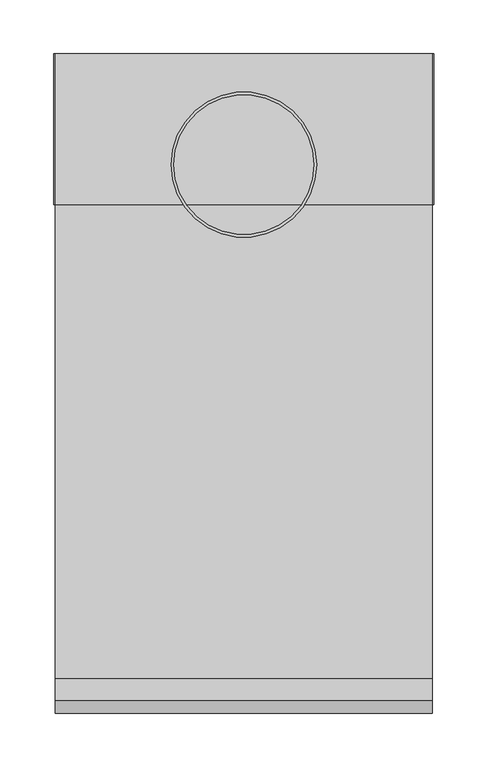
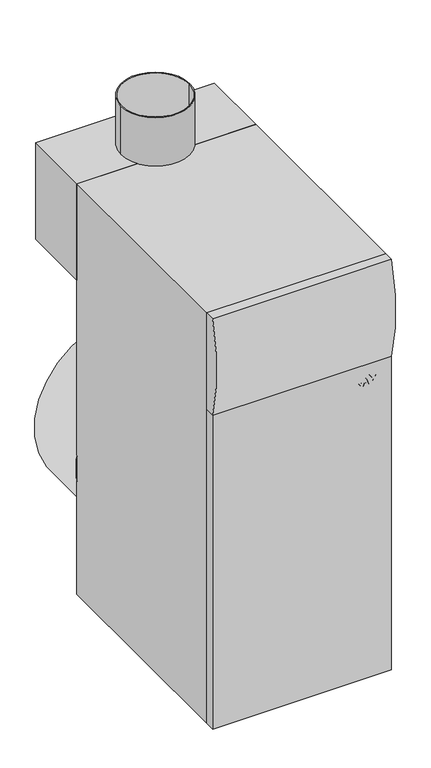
"""IFC4 building model written with IfcOpenShell, lengths in millimetres: proxy geometry, BAXI_ГазовыйКотел_Slim-i : BAXI_Газовый котел_Slim_1.230_i."""

from ifc_helpers import new_model, si_unit, point, frame, frame_2d, origin, origin_with_axes, place, context, project, spatial, polyline, circle_curve, trimmed, segment, composite_curve, outline, extrude, source, transform, mapped, element, save


def mechanical_equipment_adfab362(model_context):
    return source(origin(), model_context, "Body", "SweptSolid", [
        extrude(outline(composite_curve([segment(trimmed(circle_curve(frame_2d((260.3398592, 0.0)), 177.354555), [point((82.9853042, 0.0))], [point((437.6944142, 0.0))], False, "CARTESIAN"), True, "CONTINUOUS"), segment(trimmed(circle_curve(frame_2d((260.3398592, 0.0)), 177.354555), [point((437.6944142, 0.0))], [point((82.9853042, 0.0))], False, "CARTESIAN"), True, "CONTINUOUS")], self_intersect=False)), frame((0.0, -140.0, 0.0), z_axis=(0.0, 1.0, 0.0), x_axis=(0.0, 0.0, 1.0)), (0.0, 0.0, 1.0), 140.0),
        extrude(outline(polyline([(175.0, 0.0), (175.0, -140.0), (-175.0, -140.0), (-175.0, 0.0), (175.0, 0.0)])), frame((0.0, 0.0, 650.0), z_axis=(0.0, 0.0, 1.0), x_axis=(1.0, 0.0, 0.0)), (0.0, 0.0, 1.0), 200.0),
        extrude(outline(composite_curve([segment(trimmed(circle_curve(frame_2d((0.0, -103.0)), 67.5), [point((-67.5, -103.0))], [point((67.5, -103.0))], False, "CARTESIAN"), True, "CONTINUOUS"), segment(trimmed(circle_curve(frame_2d((0.0, -103.0)), 67.5), [point((67.5, -103.0))], [point((-67.5, -103.0))], False, "CARTESIAN"), True, "CONTINUOUS")], self_intersect=False), holes=[composite_curve([segment(trimmed(circle_curve(frame_2d((0.0, -103.0)), 65.0), [point((-65.0, -103.0))], [point((65.0, -103.0))], True, "CARTESIAN"), True, "CONTINUOUS"), segment(trimmed(circle_curve(frame_2d((0.0, -103.0)), 65.0), [point((65.0, -103.0))], [point((-65.0, -103.0))], True, "CARTESIAN"), True, "CONTINUOUS")], self_intersect=False)]), frame((0.0, 0.0, 850.0), z_axis=(0.0, 0.0, 1.0), x_axis=(1.0, 0.0, 0.0)), (0.0, 0.0, 1.0), 100.0),
        extrude(outline(composite_curve([segment(trimmed(circle_curve(frame_2d((60.0, 90.0)), 16.0), [point((44.0, 90.0))], [point((76.0, 90.0))], False, "CARTESIAN"), True, "CONTINUOUS"), segment(trimmed(circle_curve(frame_2d((60.0, 90.0)), 16.0), [point((76.0, 90.0))], [point((44.0, 90.0))], False, "CARTESIAN"), True, "CONTINUOUS")], self_intersect=False)), frame((0.0, -140.0, 0.0), z_axis=(0.0, 1.0, 0.0), x_axis=(0.0, 0.0, 1.0)), (0.0, 0.0, 1.0), 37.0),
        extrude(outline(composite_curve([segment(polyline([(-580.5, 650.0), (-600.5, 650.0)]), True, "CONTINUOUS"), segment(trimmed(circle_curve(frame_2d((-246.0821371, 750.0)), 368.2553754), [point((-600.5, 650.0))], [point((-600.5, 850.0))], False, "CARTESIAN"), True, "CONTINUOUS"), segment(polyline([(-600.5, 850.0), (-580.5, 850.0), (-580.5, 650.0)]), True, "CONTINUOUS")], self_intersect=False)), frame((-175.0, 0.0, 0.0), z_axis=(1.0, 0.0, 0.0), x_axis=(0.0, 1.0, 0.0)), (0.0, 0.0, 1.0), 350.0),
        extrude(outline(polyline([(175.0, -580.5), (175.0, -600.0), (-175.0, -600.0), (-175.0, -580.5), (175.0, -580.5)])), origin_with_axes(), (0.0, 0.0, 1.0), 650.0),
        extrude(outline(composite_curve([segment(trimmed(circle_curve(frame_2d((435.0, 133.0)), 7.5), [point((427.5, 133.0))], [point((442.5, 133.0))], False, "CARTESIAN"), True, "CONTINUOUS"), segment(trimmed(circle_curve(frame_2d((435.0, 133.0)), 7.5), [point((442.5, 133.0))], [point((427.5, 133.0))], False, "CARTESIAN"), True, "CONTINUOUS")], self_intersect=False)), frame((0.0, -140.0, 0.0), z_axis=(0.0, 1.0, 0.0), x_axis=(0.0, 0.0, 1.0)), (0.0, 0.0, 1.0), 37.0),
        extrude(outline(composite_curve([segment(trimmed(circle_curve(frame_2d((515.0, 133.0)), 10.0), [point((505.0, 133.0))], [point((525.0, 133.0))], False, "CARTESIAN"), True, "CONTINUOUS"), segment(trimmed(circle_curve(frame_2d((515.0, 133.0)), 10.0), [point((525.0, 133.0))], [point((505.0, 133.0))], False, "CARTESIAN"), True, "CONTINUOUS")], self_intersect=False)), frame((0.0, -140.0, 0.0), z_axis=(0.0, 1.0, 0.0), x_axis=(0.0, 0.0, 1.0)), (0.0, 0.0, 1.0), 37.0),
        extrude(outline(polyline([(175.0, -140.0), (175.0, -580.5), (-175.0, -580.5), (-175.0, -140.0), (175.0, -140.0)])), origin_with_axes(), (0.0, 0.0, 1.0), 850.0),
        extrude(outline(polyline([(621.6148871, 105.7694053), (606.3109961, 105.7694053), (606.3109961, 110.999753), (606.4134776, 114.7422224), (607.1365409, 116.8241133), (608.7041269, 118.1563717), (610.7252881, 118.6441073), (613.0216309, 117.9646935), (614.4032322, 116.0213422), (615.7582642, 117.5832349), (617.7395715, 118.1582695), (619.5405874, 117.6762273), (620.8272985, 116.4711218), (621.4630628, 114.8314192), (621.6148871, 112.0511364), (621.6148871, 105.7694053)]), holes=[polyline([(618.9427792, 108.6844322), (618.9427792, 110.6353747), (615.5912574, 113.3758036), (615.5419145, 110.9086584), (615.5419145, 108.6844322), (618.9427792, 108.6844322)]), polyline([(612.8698066, 108.6844322), (612.8698066, 111.3755182), (609.0741987, 114.0514218), (608.9831041, 111.7664658), (608.9831041, 108.6844322), (612.8698066, 108.6844322)])]), frame((0.0, -600.0, 0.0), z_axis=(0.0, 1.0, 0.0), x_axis=(0.0, 0.0, 1.0)), (0.0, 0.0, 1.0), 5.0),
        extrude(outline(polyline([(606.3109961, 133.9479983), (621.6148871, 128.307725), (621.6148871, 125.2029177), (606.3109961, 119.6157829), (606.3109961, 122.7205902), (609.7118608, 123.9048198), (609.7118608, 129.6855306), (606.3109961, 130.8849427), (606.3109961, 133.9479983)]), holes=[polyline([(612.3839688, 128.7518111), (612.3839688, 124.8385394), (617.9711036, 126.7818906), (612.3839688, 128.7518111)])]), frame((0.0, -600.0, 0.0), z_axis=(0.0, 1.0, 0.0), x_axis=(0.0, 0.0, 1.0)), (0.0, 0.0, 1.0), 5.0),
        extrude(outline(polyline([(606.3109961, 134.0694577), (606.3109961, 137.4779136), (611.7159418, 140.9926465), (606.3109961, 144.5073794), (606.3109961, 147.9158353), (614.3349112, 142.6968745), (621.6148871, 147.4299975), (621.6148871, 144.0215416), (616.9576763, 140.9926465), (621.6148871, 137.9637514), (621.6148871, 134.5552956), (614.3349112, 139.2884186), (606.3109961, 134.0694577)])), frame((0.0, -600.0, 0.0), z_axis=(0.0, 1.0, 0.0), x_axis=(0.0, 0.0, 1.0)), (0.0, 0.0, 1.0), 5.0),
        extrude(outline(polyline([(149.4948082, -595.0), (152.4098351, -595.0), (152.4098351, -600.0), (149.4948082, -600.0), (149.4948082, -595.0)])), frame((0.0, 0.0, 606.3109961), z_axis=(0.0, 0.0, 1.0), x_axis=(1.0, 0.0, 0.0)), (0.0, 0.0, 1.0), 15.303891),
    ])


if __name__ == "__main__":
    model = new_model("IFC4")
    model_context = context("Model", 3, world=origin())
    ifc_project = project(units=[si_unit("LENGTHUNIT", "METRE", prefix="MILLI")], contexts=[model_context])
    site = spatial("IfcSite", under=ifc_project)
    building = spatial("IfcBuilding", under=site)
    placement = place(None, origin())
    mechanical_equipment_shape = mechanical_equipment_adfab362(model_context)
    element("IfcBuildingElementProxy", 1, Name="BAXI_ГазовыйКотел_Slim-i : BAXI_Газовый котел_Slim_1.230_i", ObjectType="BAXI_ГазовыйКотел_Slim-i : BAXI_Газовый котел_Slim_1.230_i", at=placement, inside=building, context=model_context, shape_type="MappedRepresentation", body=[
        mapped(mechanical_equipment_shape, transform((0.0, 0.0, 0.0), x_axis=(1.0, 0.0, 0.0), y_axis=(0.0, 1.0, 0.0), z_axis=(0.0, 0.0, 1.0))),
    ])
    save(model, "model.ifc")
